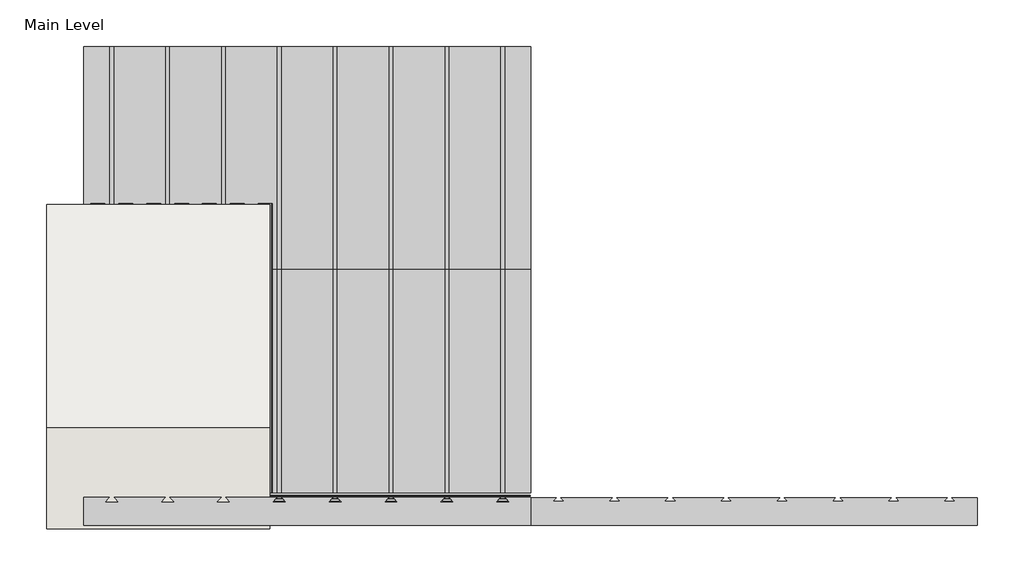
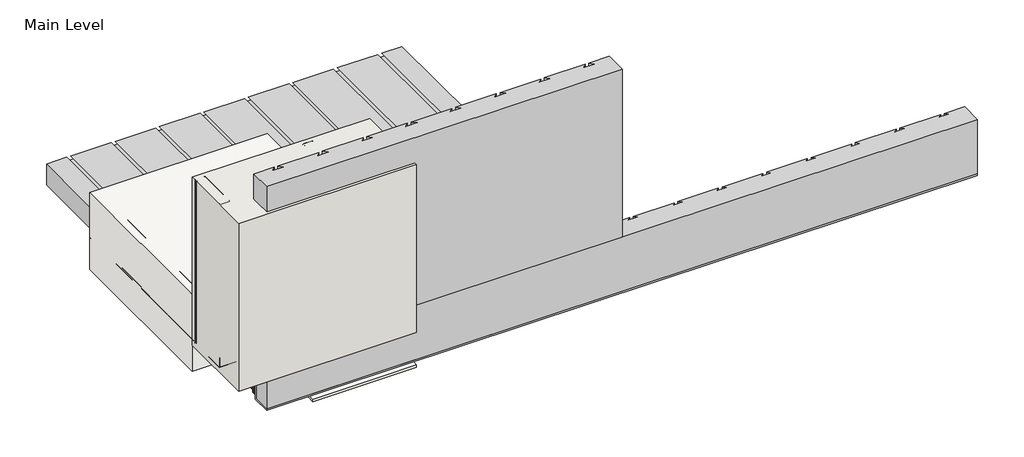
# One storey, incomplete: 25 proxies, 2 coverings, 2 walls.
"""IFC4 building model written with IfcOpenShell, lengths in millimetres."""

from ifc_helpers import new_model, si_unit, frame, origin, origin_with_axes, place, context, project, spatial, polyline, outline, extrude, transform, mapped, element, save
from components import generic_models_cd07b2ce, generic_models_4ec5f286, generic_models_2e656d56, generic_models_47e8b319, generic_models_65503a8f, proxy_998bcb27, proxy_b027fc18, proxy_63d6b373, soffit_box_soffit_box_70e22adb, top_adhesive_top_adhesive_610fdb37, wood_blocking_c9818c35, wood_blocking_63bdfc83

model = new_model("IFC4")

# Units and contexts
model_context = context("Model", 3, world=origin())
ifc_project = project(units=[si_unit("LENGTHUNIT", "METRE", prefix="MILLI")], contexts=[model_context])

# Site, building, storey
site = spatial("IfcSite", under=ifc_project)
building = spatial("IfcBuilding", under=site)
storey = spatial("IfcBuildingStorey", under=building, Name="Main Level", Elevation=0.0)

# Proxies
placement = place(None, origin())
generic_models_shape = generic_models_cd07b2ce(model_context)
element("IfcBuildingElementProxy", 1, Name="CRAi Generic Model Metal Stud Array : CRAi Generic Model Metal Stud Array", ObjectType="CRAi Generic Model Metal Stud Array : CRAi Generic Model Metal Stud Array", at=placement, inside=storey, context=model_context, shape_type="MappedRepresentation", body=[
    mapped(generic_models_shape, transform((26692.3726773, 726.0566297, 22.225), x_axis=(-1.0, 0.0, 0.0), y_axis=(0.0, -1.0, 0.0), z_axis=(0.0, 0.0, 1.0))),
])
generic_models_2_shape = generic_models_4ec5f286(model_context)
element("IfcBuildingElementProxy", 2, Name="Durabond Generic Model Insulation Adhesive Flat : Durabond Generic Model Insulation Adhesive Flat", ObjectType="Durabond Generic Model Insulation Adhesive Flat : Durabond Generic Model Insulation Adhesive Flat", at=placement, inside=storey, context=model_context, shape_type="MappedRepresentation", body=[
    mapped(generic_models_2_shape, transform((26628.8726773, 627.6316297, -9.525), x_axis=(1.0, 0.0, 0.0), y_axis=(0.0, 1.0, 0.0), z_axis=(0.0, 0.0, 1.0))),
])
element("IfcBuildingElementProxy", 3, Name="Durabond Generic Model Insulation Adhesive Flat : Durabond Generic Model Insulation Adhesive Flat", ObjectType="Durabond Generic Model Insulation Adhesive Flat : Durabond Generic Model Insulation Adhesive Flat", at=placement, inside=storey, context=model_context, shape_type="MappedRepresentation", body=[
    mapped(generic_models_2_shape, transform((26705.0726773, 627.6316297, -9.525), x_axis=(1.0, 0.0, 0.0), y_axis=(0.0, 1.0, 0.0), z_axis=(0.0, 0.0, 1.0))),
])
element("IfcBuildingElementProxy", 4, Name="Durabond Generic Model Insulation Adhesive Flat : Durabond Generic Model Insulation Adhesive Flat", ObjectType="Durabond Generic Model Insulation Adhesive Flat : Durabond Generic Model Insulation Adhesive Flat", at=placement, inside=storey, context=model_context, shape_type="MappedRepresentation", body=[
    mapped(generic_models_2_shape, transform((26781.2726773, 627.6316297, -9.525), x_axis=(1.0, 0.0, 0.0), y_axis=(0.0, 1.0, 0.0), z_axis=(0.0, 0.0, 1.0))),
])
element("IfcBuildingElementProxy", 5, Name="Durabond Generic Model Insulation Adhesive Flat : Durabond Generic Model Insulation Adhesive Flat", ObjectType="Durabond Generic Model Insulation Adhesive Flat : Durabond Generic Model Insulation Adhesive Flat", at=placement, inside=storey, context=model_context, shape_type="MappedRepresentation", body=[
    mapped(generic_models_2_shape, transform((26857.4610717, 626.3017563, -9.525), x_axis=(1.0, 0.0, 0.0), y_axis=(0.0, 1.0, 0.0), z_axis=(0.0, 0.0, 1.0))),
])
element("IfcBuildingElementProxy", 6, Name="Durabond Generic Model Insulation Adhesive Flat : Durabond Generic Model Insulation Adhesive Flat", ObjectType="Durabond Generic Model Insulation Adhesive Flat : Durabond Generic Model Insulation Adhesive Flat", at=placement, inside=storey, context=model_context, shape_type="MappedRepresentation", body=[
    mapped(generic_models_2_shape, transform((26933.6610717, 626.3017563, -9.525), x_axis=(1.0, 0.0, 0.0), y_axis=(0.0, 1.0, 0.0), z_axis=(0.0, 0.0, 1.0))),
])
element("IfcBuildingElementProxy", 7, Name="Durabond Generic Model Insulation Adhesive Flat : Durabond Generic Model Insulation Adhesive Flat", ObjectType="Durabond Generic Model Insulation Adhesive Flat : Durabond Generic Model Insulation Adhesive Flat", at=placement, inside=storey, context=model_context, shape_type="MappedRepresentation", body=[
    mapped(generic_models_2_shape, transform((27009.849466, 624.9718829, -9.525), x_axis=(1.0, 0.0, 0.0), y_axis=(0.0, 1.0, 0.0), z_axis=(0.0, 0.0, 1.0))),
])
element("IfcBuildingElementProxy", 8, Name="Durabond Generic Model Insulation Adhesive Flat : Durabond Generic Model Insulation Adhesive Flat", ObjectType="Durabond Generic Model Insulation Adhesive Flat : Durabond Generic Model Insulation Adhesive Flat", at=placement, inside=storey, context=model_context, shape_type="MappedRepresentation", body=[
    mapped(generic_models_2_shape, transform((27086.0378604, 623.6420095, -9.525), x_axis=(1.0, 0.0, 0.0), y_axis=(0.0, 1.0, 0.0), z_axis=(0.0, 0.0, 1.0))),
])
generic_models_3_shape = generic_models_2e656d56(model_context)
generic_models_4_shape = generic_models_47e8b319(model_context)
element("IfcBuildingElementProxy", 9, Name="Durabond Generic Soffit Drainage Vent : Durabond Generic Soffit Drainage Vent", ObjectType="Durabond Generic Soffit Drainage Vent : Durabond Generic Soffit Drainage Vent", at=placement, inside=storey, context=model_context, shape_type="MappedRepresentation", body=[
    mapped(generic_models_3_shape, transform((27199.3497774, 626.0441297, -93.6625), x_axis=(1.0, 0.0, 0.0), y_axis=(0.0, 1.0, 0.0), z_axis=(0.0, 0.0, 1.0))),
    mapped(generic_models_4_shape, transform((27199.3497774, 626.0441297, -93.6625), x_axis=(1.0, 0.0, 0.0), y_axis=(0.0, 1.0, 0.0), z_axis=(0.0, 0.0, 1.0))),
])
generic_models_5_shape = generic_models_65503a8f(model_context)
element("IfcBuildingElementProxy", 10, Name="Durabond Generic Model Insulation Adhesive Flat : Durabond Generic Model Insulation Adhesive Flat", ObjectType="Durabond Generic Model Insulation Adhesive Flat : Durabond Generic Model Insulation Adhesive Flat", at=placement, inside=storey, context=model_context, shape_type="MappedRepresentation", body=[
    mapped(generic_models_5_shape, transform((26628.8726773, 637.1566297, -6.35), x_axis=(1.0, 0.0, 0.0), y_axis=(0.0, 0.0, -1.0), z_axis=(0.0, 1.0, 0.0))),
])
element("IfcBuildingElementProxy", 11, Name="Durabond Generic Model Insulation Adhesive Flat : Durabond Generic Model Insulation Adhesive Flat", ObjectType="Durabond Generic Model Insulation Adhesive Flat : Durabond Generic Model Insulation Adhesive Flat", at=placement, inside=storey, context=model_context, shape_type="MappedRepresentation", body=[
    mapped(generic_models_5_shape, transform((26705.0726773, 637.1566297, -6.35), x_axis=(1.0, 0.0, 0.0), y_axis=(0.0, 0.0, -1.0), z_axis=(0.0, 1.0, 0.0))),
])
element("IfcBuildingElementProxy", 12, Name="Durabond Generic Model Insulation Adhesive Flat : Durabond Generic Model Insulation Adhesive Flat", ObjectType="Durabond Generic Model Insulation Adhesive Flat : Durabond Generic Model Insulation Adhesive Flat", at=placement, inside=storey, context=model_context, shape_type="MappedRepresentation", body=[
    mapped(generic_models_5_shape, transform((26781.2726773, 637.1566297, -6.35), x_axis=(1.0, 0.0, 0.0), y_axis=(0.0, 0.0, -1.0), z_axis=(0.0, 1.0, 0.0))),
])
element("IfcBuildingElementProxy", 13, Name="Durabond Generic Model Insulation Adhesive Flat : Durabond Generic Model Insulation Adhesive Flat", ObjectType="Durabond Generic Model Insulation Adhesive Flat : Durabond Generic Model Insulation Adhesive Flat", at=placement, inside=storey, context=model_context, shape_type="MappedRepresentation", body=[
    mapped(generic_models_5_shape, transform((26857.4726773, 637.1566297, -6.35), x_axis=(1.0, 0.0, 0.0), y_axis=(0.0, 0.0, -1.0), z_axis=(0.0, 1.0, 0.0))),
])
element("IfcBuildingElementProxy", 14, Name="Durabond Generic Model Insulation Adhesive Flat : Durabond Generic Model Insulation Adhesive Flat", ObjectType="Durabond Generic Model Insulation Adhesive Flat : Durabond Generic Model Insulation Adhesive Flat", at=placement, inside=storey, context=model_context, shape_type="MappedRepresentation", body=[
    mapped(generic_models_5_shape, transform((26933.6726773, 637.1566297, -6.35), x_axis=(1.0, 0.0, 0.0), y_axis=(0.0, 0.0, -1.0), z_axis=(0.0, 1.0, 0.0))),
])
element("IfcBuildingElementProxy", 15, Name="Durabond Generic Model Insulation Adhesive Flat : Durabond Generic Model Insulation Adhesive Flat", ObjectType="Durabond Generic Model Insulation Adhesive Flat : Durabond Generic Model Insulation Adhesive Flat", at=placement, inside=storey, context=model_context, shape_type="MappedRepresentation", body=[
    mapped(generic_models_5_shape, transform((27009.8726773, 637.1566297, -6.35), x_axis=(1.0, 0.0, 0.0), y_axis=(0.0, 0.0, -1.0), z_axis=(0.0, 1.0, 0.0))),
])
element("IfcBuildingElementProxy", 16, Name="Durabond Generic Model Insulation Adhesive Flat : Durabond Generic Model Insulation Adhesive Flat", ObjectType="Durabond Generic Model Insulation Adhesive Flat : Durabond Generic Model Insulation Adhesive Flat", at=placement, inside=storey, context=model_context, shape_type="MappedRepresentation", body=[
    mapped(generic_models_5_shape, transform((27086.0726773, 637.1566297, -6.35), x_axis=(1.0, 0.0, 0.0), y_axis=(0.0, 0.0, -1.0), z_axis=(0.0, 1.0, 0.0))),
])
proxy_shape = proxy_998bcb27(model_context)
element("IfcBuildingElementProxy", 17, Name="Durabond Generic Model Flexlite Insulation Board : 3\"", ObjectType="Durabond Generic Model Flexlite Insulation Board : 3\"", at=placement, inside=storey, context=model_context, shape_type="MappedRepresentation", body=[
    mapped(proxy_shape, transform((27200.3726773, 624.4566297, 396.875), x_axis=(1.0, 0.0, 0.0), y_axis=(0.0, 0.0, 1.0), z_axis=(0.0, -1.0, 0.0))),
])
element("IfcBuildingElementProxy", 18, Name="Durabond Generic Model Flexlite Insulation Board : 3\"", ObjectType="Durabond Generic Model Flexlite Insulation Board : 3\"", at=placement, inside=storey, context=model_context, shape_type="MappedRepresentation", body=[
    mapped(proxy_shape, transform((27200.3726773, 941.9566297, -9.525), x_axis=(-1.0, 0.0, 0.0), y_axis=(0.0, 1.0, 0.0), z_axis=(0.0, 0.0, -1.0))),
])
element("IfcBuildingElementProxy", 19, Name="Durabond Generic Model Flexlite Insulation Board : 3\"", ObjectType="Durabond Generic Model Flexlite Insulation Board : 3\"", at=placement, inside=storey, context=model_context, shape_type="MappedRepresentation", body=[
    mapped(proxy_shape, transform((27200.3726773, 1551.5566297, -9.5089222), x_axis=(-1.0, 0.0, 0.0), y_axis=(0.0, 1.0, 0.0), z_axis=(0.0, 0.0, -1.0))),
])
proxy_2_shape = proxy_b027fc18(model_context)
element("IfcBuildingElementProxy", 20, Name="Durabond Generic Model Flexlite Vent Board : 3\"", ObjectType="Durabond Generic Model Flexlite Vent Board : 3\"", at=placement, inside=storey, context=model_context, shape_type="MappedRepresentation", body=[
    mapped(proxy_2_shape, transform((27809.9726773, 624.4566297, -9.525), x_axis=(1.0, 0.0, 0.0), y_axis=(0.0, 0.0, 1.0), z_axis=(0.0, -1.0, 0.0))),
])
proxy_3_shape = proxy_63d6b373(model_context)
element("IfcBuildingElementProxy", 21, Name="Durabond Generic Model Corner 90 Membrane : 4\" Barrier Seam Tape", ObjectType="Durabond Generic Model Corner 90 Membrane : 4\" Barrier Seam Tape", at=placement, inside=storey, context=model_context, shape_type="MappedRepresentation", body=[
    mapped(proxy_3_shape, transform((26514.5726773, 633.9816297, 0.0), x_axis=(0.0, 0.0, -1.0), y_axis=(0.0, 1.0, 0.0), z_axis=(1.0, 0.0, 0.0))),
])
soffit_box_soffit_box_shape = soffit_box_soffit_box_70e22adb(model_context)
element("IfcBuildingElementProxy", 22, Name="Soffit Box : Soffit Box", ObjectType="Soffit Box : Soffit Box", at=placement, inside=storey, context=model_context, shape_type="MappedRepresentation", body=[
    mapped(soffit_box_soffit_box_shape, transform((0.0, 0.0, 0.0), x_axis=(1.0, 0.0, 0.0), y_axis=(0.0, 1.0, 0.0), z_axis=(0.0, 0.0, 1.0))),
])
top_adhesive_top_adhesive_shape = top_adhesive_top_adhesive_610fdb37(model_context)
element("IfcBuildingElementProxy", 23, Name="Top Adhesive : Top Adhesive", ObjectType="Top Adhesive : Top Adhesive", at=placement, inside=storey, context=model_context, shape_type="MappedRepresentation", body=[
    mapped(top_adhesive_top_adhesive_shape, transform((0.0, 0.0, 0.0), x_axis=(1.0, 0.0, 0.0), y_axis=(0.0, 1.0, 0.0), z_axis=(0.0, 0.0, 1.0))),
])
wood_blocking_shape = wood_blocking_c9818c35(model_context)
element("IfcBuildingElementProxy", 24, Name="CRAi Generic Model Line Based Metal Framing Track : Wood Blocking", ObjectType="CRAi Generic Model Line Based Metal Framing Track : Wood Blocking", at=placement, inside=storey, context=model_context, shape_type="MappedRepresentation", body=[
    mapped(wood_blocking_shape, transform((26489.1726773, 649.8566297, 15.875), x_axis=(1.0, 0.0, 0.0), y_axis=(0.0, 1.0, 0.0), z_axis=(0.0, 0.0, 1.0))),
])
wood_blocking_2_shape = wood_blocking_63bdfc83(model_context)
element("IfcBuildingElementProxy", 25, Name="CRAi Generic Model Line Based Metal Framing Track : Wood Blocking", ObjectType="CRAi Generic Model Line Based Metal Framing Track : Wood Blocking", at=placement, inside=storey, context=model_context, shape_type="MappedRepresentation", body=[
    mapped(wood_blocking_2_shape, transform((26491.8622441, 802.2566297, 168.275), x_axis=(1.0, 0.0, 0.0), y_axis=(0.0, 0.0, -1.0), z_axis=(0.0, 1.0, 0.0))),
])

# Coverings
element("IfcCovering", 26, ObjectType="Durabond Detail Ceiling Metal Stud (AirStop)", at=placement, inside=storey, context=model_context, shape_type="SweptSolid", body=[
    extrude(outline(polyline([(27098.7726773, 814.9566297), (26489.1726773, 814.9566297), (26489.1726773, 1424.5566297), (27098.7726773, 1424.5566297), (27098.7726773, 814.9566297)])), frame((0.0, 0.0, -95.25), z_axis=(0.0, 0.0, 1.0), x_axis=(1.0, 0.0, 0.0)), (0.0, 0.0, 1.0), 279.4),
])
element("IfcCovering", 27, ObjectType="Durabond Stucco Lamina", at=placement, inside=storey, context=model_context, shape_type="SweptSolid", body=[
    extrude(outline(polyline([(538.7316297, -117.7552522), (614.9316297, -111.088616), (614.9316297, -120.65), (538.7316297, -127.3166362), (538.7316297, -117.7552522)])), frame((26743.1726773, 0.0, 0.0), z_axis=(1.0, 0.0, 0.0), x_axis=(0.0, 1.0, 0.0)), (0.0, 0.0, 1.0), 355.6),
])

# Walls
element("IfcWall", 28, ObjectType="189mm (7.5”) EIFS Field Applied on Mtl. Stud Layer - 50mm Grooved Insulation Board Metal Stud Wall (AirStop)", at=placement, inside=storey, context=model_context, shape_type="SweptSolid", body=[
    extrude(outline(polyline([(27098.7726773, 538.7316297), (26489.1726773, 538.7316297), (26489.1726773, 814.9566297), (27098.7726773, 814.9566297), (27098.7726773, 538.7316297)])), origin_with_axes(), (0.0, 0.0, 1.0), 609.6),
])
element("IfcWall", 29, ObjectType="Durabond Stucco System Lamina Back of Soffit", at=placement, inside=storey, context=model_context, shape_type="SweptSolid", body=[
    extrude(outline(polyline([(27098.7726773, 614.9316297), (26743.1726773, 614.9316297), (26743.1726773, 621.2816297), (27098.7726773, 621.2816297), (27098.7726773, 614.9316297)])), frame((0.0, 0.0, -123.7148464), z_axis=(0.0, 0.0, 1.0), x_axis=(1.0, 0.0, 0.0)), (0.0, 0.0, 1.0), 47.5148464),
])

save(model, "model.ifc")
